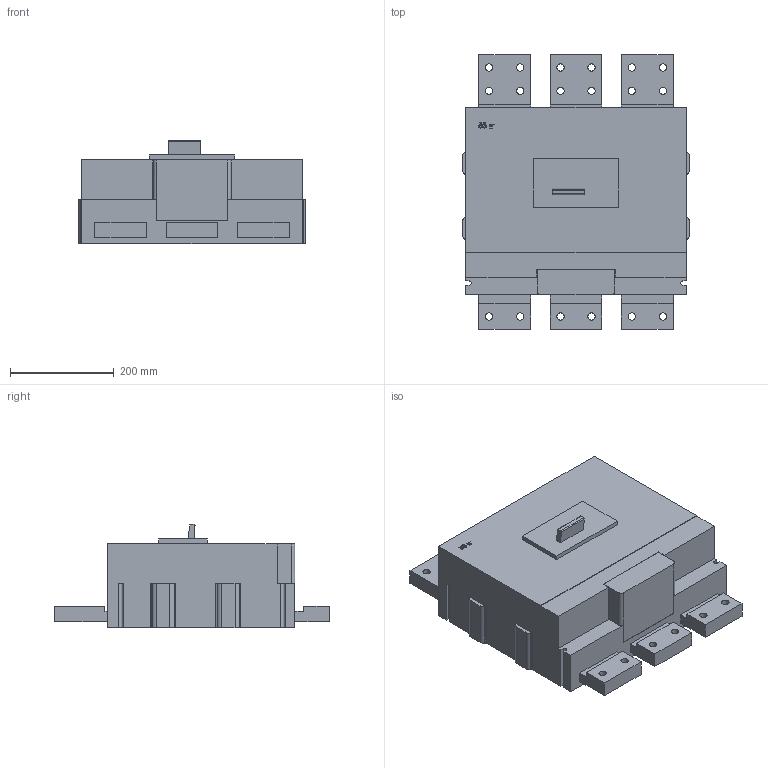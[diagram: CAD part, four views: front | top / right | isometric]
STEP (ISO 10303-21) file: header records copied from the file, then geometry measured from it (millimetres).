
FILE_DESCRIPTION (( 'STEP AP214' ), '1' );
FILE_NAME ('ﾂﾀ 53(55)-43 2000ﾀ.STEP', '2023-02-08T11:35:07', ( '' ), ( '' ), 'SwSTEP 2.0', 'SolidWorks 2018', '' );
FILE_SCHEMA (( 'AUTOMOTIVE_DESIGN' ));
Length unit declared in the file: millimetre
Products named in the file (1): ﾂﾀ 53(55)-43 2000ﾀ
Bounding box: 438 x 530 x 200.19 mm (x, y, z)
Volume: 25847683.3 mm3; surface area: 779592.6 mm2
Topology: 1 solids, 1 shells, 154 faces, 493 edges, 353 vertices
Faces by surface type: plane 112, cylinder 40, bspline 2
Full cylindrical faces by diameter (mm): 14 x18
Entity records: 5763 total; most frequent: CARTESIAN_POINT 1403, ORIENTED_EDGE 914, DIRECTION 805, EDGE_CURVE 457, VECTOR 339, LINE 339, VERTEX_POINT 335, AXIS2_PLACEMENT_3D 233
